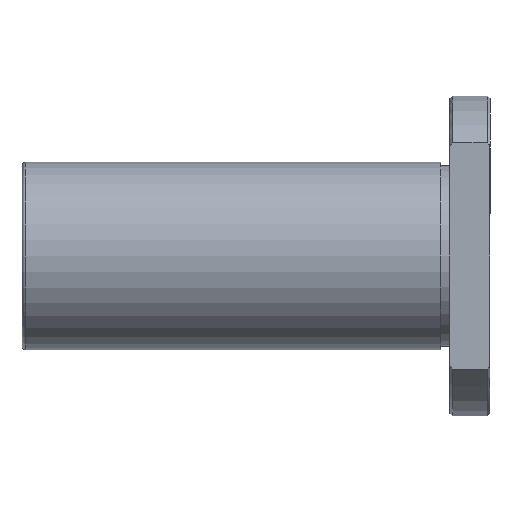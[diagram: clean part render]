
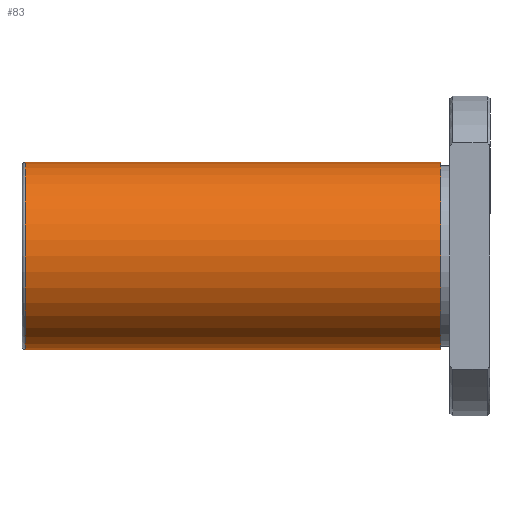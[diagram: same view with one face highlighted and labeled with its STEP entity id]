
A CAD part, front view. The second image highlights one B-rep face of the part: STEP entity #83.
In plain terms, the highlighted cylindrical face has radius 14 mm (diameter 28 mm), a full revolution.
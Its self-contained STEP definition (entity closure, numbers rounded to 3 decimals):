
#83=ADVANCED_FACE('',(#128,#129),#130,.T.);
#128=FACE_OUTER_BOUND('',#212,.T.);
#129=FACE_OUTER_BOUND('',#213,.T.);
#130=CYLINDRICAL_SURFACE('',#214,14.0);
#212=EDGE_LOOP('',(#331));
#213=EDGE_LOOP('',(#332));
#214=AXIS2_PLACEMENT_3D('',#333,#334,#335);
#331=ORIENTED_EDGE('',*,*,#473,.T.);
#332=ORIENTED_EDGE('',*,*,#476,.F.);
#333=CARTESIAN_POINT('',(-21.95,0.0,0.));
#334=DIRECTION('',(-1.0,-0.0,0.));
#335=DIRECTION('',(0.0,1.0,0.0));
#473=EDGE_CURVE('',#540,#540,#541,.T.);
#476=EDGE_CURVE('',#545,#545,#546,.T.);
#540=VERTEX_POINT('',#647);
#541=CIRCLE('',#648,14.0);
#545=VERTEX_POINT('',#655);
#546=CIRCLE('',#656,14.0);
#647=CARTESIAN_POINT('',(-7.4,14.0,0.0));
#648=AXIS2_PLACEMENT_3D('',#743,#744,#745);
#655=CARTESIAN_POINT('',(-69.5,14.0,0.));
#656=AXIS2_PLACEMENT_3D('',#749,#750,#751);
#743=CARTESIAN_POINT('',(-7.4,0.0,0.0));
#744=DIRECTION('',(-1.0,0.0,0.));
#745=DIRECTION('',(0.0,1.0,0.0));
#749=CARTESIAN_POINT('',(-69.5,0.,0.));
#750=DIRECTION('',(-1.0,0.0,0.));
#751=DIRECTION('',(0.0,1.0,0.0));
